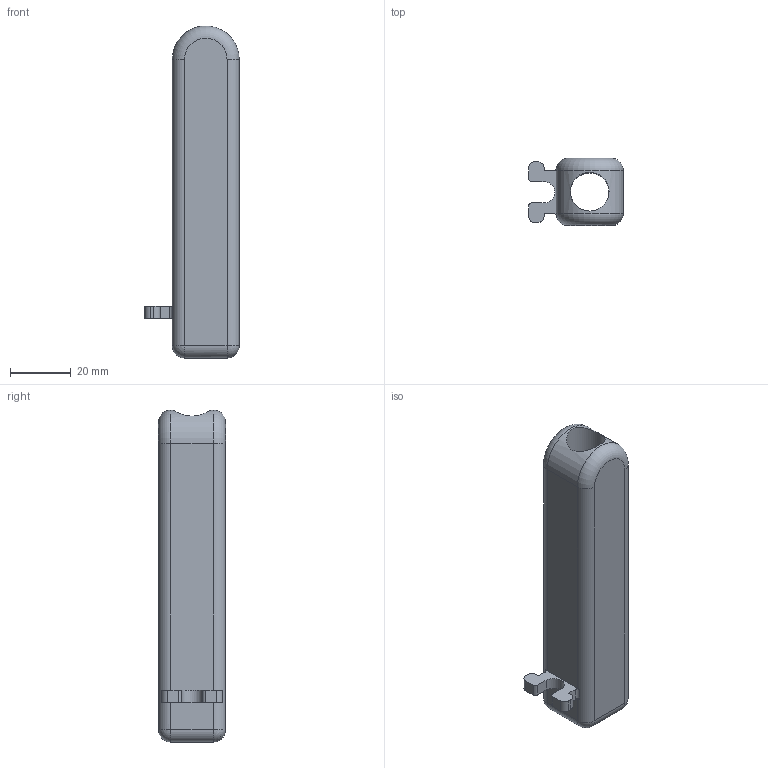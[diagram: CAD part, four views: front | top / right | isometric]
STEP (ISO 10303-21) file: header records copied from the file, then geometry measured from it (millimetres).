
FILE_DESCRIPTION(/* description */ (''),/* implementation_level */ '2;1');
FILE_NAME(/* name */ 'C:/Users/Owner/Desktop/K-CAD Songbird PM4 Centerfire/STEP/Barrels/Barrel Type 3/Barrel Type 3 0.5 inch ID.step',/* time_stamp */ '2020-12-05T21:30:23-05:00',/* author */ (''),/* organization */ (''),/* preprocessor_version */ 'ST-DEVELOPER v18.1',/* originating_system */ 'Autodesk Translation Framework v9.3.0.1241',/* authorisation */ '');
FILE_SCHEMA (('AUTOMOTIVE_DESIGN { 1 0 10303 214 3 1 1 }'));
Length unit declared in the file: inch
Products named in the file (1): Barrel Type 3 0.5 inch ID
Bounding box: 31 x 22 x 109 mm (x, y, z)
Volume: 36436.7 mm3; surface area: 13692.3 mm2
Topology: 1 solids, 1 shells, 43 faces, 110 edges, 68 vertices
Faces by surface type: cylinder 19, plane 18, sphere 4, torus 2
Full cylindrical faces by diameter (mm): 12.7 x1
Entity records: 1373 total; most frequent: CARTESIAN_POINT 254, DIRECTION 241, ORIENTED_EDGE 218, EDGE_CURVE 109, AXIS2_PLACEMENT_3D 89, VERTEX_POINT 68, LINE 63, VECTOR 63
